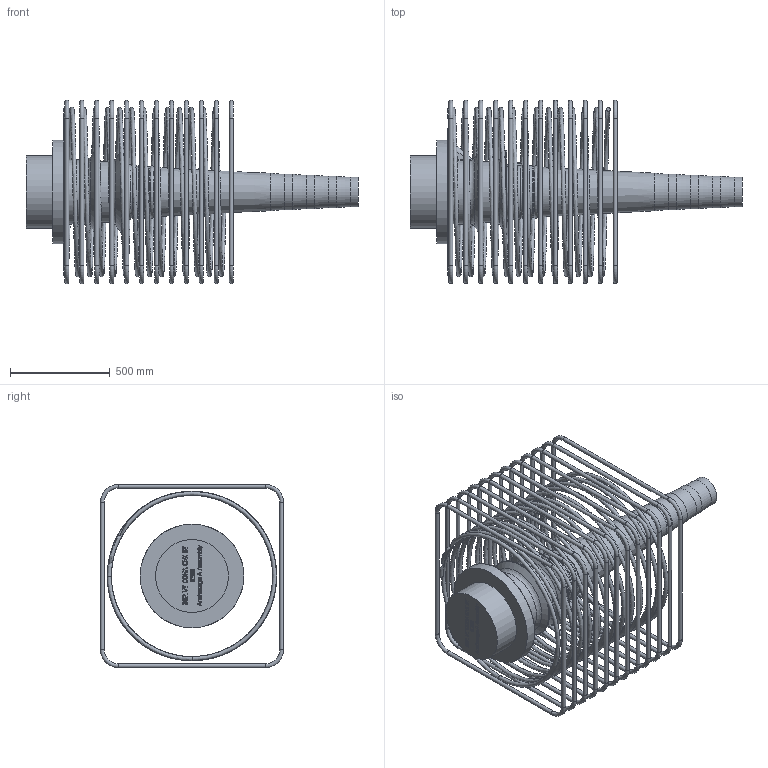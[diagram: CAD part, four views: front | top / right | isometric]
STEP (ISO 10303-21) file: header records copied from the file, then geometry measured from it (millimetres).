
FILE_DESCRIPTION(/* description */ (''),/* implementation_level */ '2;1');
FILE_NAME(/* name */ 'BBR VT CONA CMI BT 6106_Anchorage A Assembly_CS-34,28.stp',/* time_stamp */ '2025-05-21T08:35:22+02:00',/* author */ ('tk'),/* organization */ (''),/* preprocessor_version */ 'ST-DEVELOPER v20',/* originating_system */ 'Autodesk Inventor 2024',/* authorisation */ '');
FILE_SCHEMA (('AUTOMOTIVE_DESIGN { 1 0 10303 214 3 1 1 }'));
Length unit declared in the file: millimetre
Products named in the file (1): BBR VT CONA CMI BT 6106_Anchorage A Assembly_CS-34,28
Bounding box: 1665.66 x 920 x 920 mm (x, y, z)
Volume: 116557203.2 mm3; surface area: 6779695 mm2
Topology: 14 solids, 14 shells, 809 faces, 2183 edges, 1435 vertices
Faces by surface type: plane 321, bspline 319, torus 81, cylinder 68, sphere 10, cone 10
Full cylindrical faces by diameter (mm): 20 x48, 34 x1, 57 x1, 148.968 x1, 158.968 x1, 168.968 x1, 178.968 x1, 305 x1, 365 x1, 408 x1, 418 x1, 520 x1
Entity records: 34975 total; most frequent: CARTESIAN_POINT 15548, ORIENTED_EDGE 4362, DIRECTION 2955, EDGE_CURVE 2181, VERTEX_POINT 1435, LINE 1129, VECTOR 1129, AXIS2_PLACEMENT_3D 913
